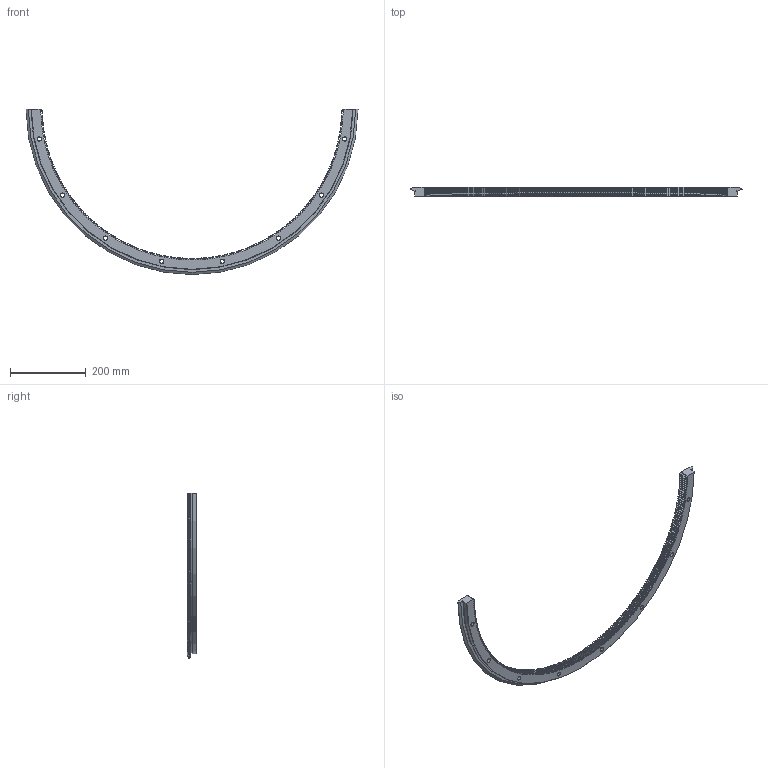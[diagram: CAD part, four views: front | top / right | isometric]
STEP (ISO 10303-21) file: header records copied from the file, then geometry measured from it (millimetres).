
FILE_DESCRIPTION( ( 'STEP AP203' ), '1' );
FILE_NAME( 'p:/temp/worker_71/temp/exporttempdir_3676_457_HiWSF/format_0/REL 874 R180 Q.stp', '2021-08-30T05:11:21', ( 'License CC BY-ND 4.0' ), ( 'CADENAS' ), ' ', 'PARTsolutions', ' ' );
FILE_SCHEMA( ( 'CONFIG_CONTROL_DESIGN' ) );
Length unit declared in the file: millimetre
Products named in the file (1): _REL 874 R180 Q
Bounding box: 873.99 x 24 x 435 mm (x, y, z)
Volume: 956624.8 mm3; surface area: 196757.5 mm2
Topology: 1 solids, 1 shells, 1032 faces, 3058 edges, 2036 vertices
Faces by surface type: cylinder 413, plane 410, cone 208, torus 1
Full cylindrical faces by diameter (mm): 11 x8, 18 x8
Entity records: 35168 total; most frequent: CARTESIAN_POINT 7322, ORIENTED_EDGE 6068, DIRECTION 5734, EDGE_CURVE 3034, AXIS2_PLACEMENT_3D 2069, VERTEX_POINT 2037, LINE 1596, VECTOR 1596
